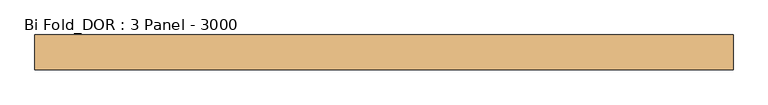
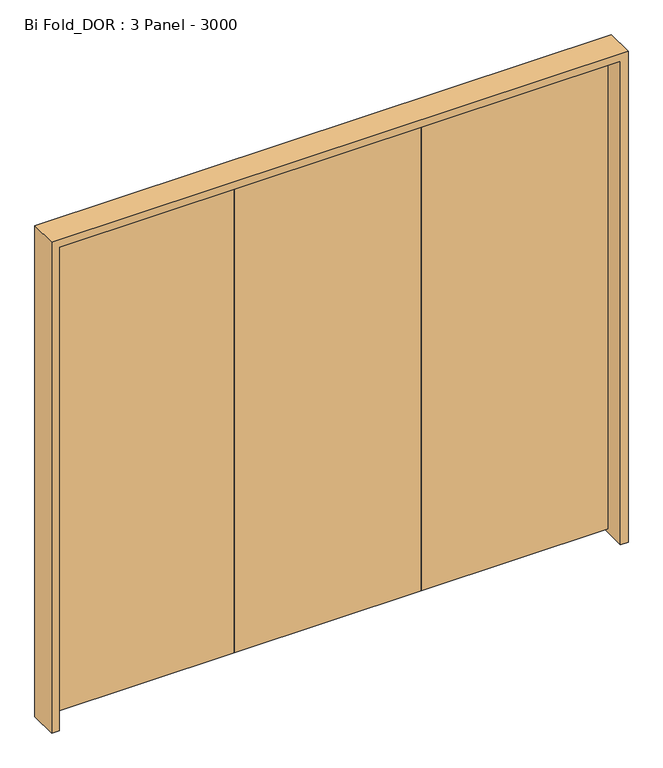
"""IFC4 building model written with IfcOpenShell, lengths in millimetres: door geometry, Bi Fold_DOR : 3 Panel - 3000."""

from ifc_helpers import new_model, si_unit, frame, origin, place, context, project, spatial, polyline, outline, extrude, source, transform, mapped, element, save


def bi_fold_dor_3_panel_3000_dd6e1ca5(model_context):
    return source(origin(), model_context, "Body", "SweptSolid", [
        extrude(outline(polyline([(1460.0, 35.0), (486.6666667, 35.0), (486.6666667, 75.0), (1460.0, 75.0), (1460.0, 35.0)])), frame((0.0, 0.0, 20.0), z_axis=(0.0, 0.0, 1.0), x_axis=(1.0, 0.0, 0.0)), (0.0, 0.0, 1.0), 2640.0),
        extrude(outline(polyline([(486.6666667, 35.0), (-486.6666667, 35.0), (-486.6666667, 75.0), (486.6666667, 75.0), (486.6666667, 35.0)])), frame((0.0, 0.0, 20.0), z_axis=(0.0, 0.0, 1.0), x_axis=(1.0, 0.0, 0.0)), (0.0, 0.0, 1.0), 2640.0),
        extrude(outline(polyline([(-486.6666667, 35.0), (-1460.0, 35.0), (-1460.0, 75.0), (-486.6666667, 75.0), (-486.6666667, 35.0)])), frame((0.0, 0.0, 20.0), z_axis=(0.0, 0.0, 1.0), x_axis=(1.0, 0.0, 0.0)), (0.0, 0.0, 1.0), 2640.0),
        extrude(outline(polyline([(0.0, 1460.0), (0.0, 1500.0), (2700.0, 1500.0), (2700.0, -1500.0), (0.0, -1500.0), (0.0, -1460.0), (2660.0, -1460.0), (2660.0, 1460.0), (0.0, 1460.0)])), frame((0.0, -75.0, 0.0), z_axis=(0.0, 1.0, 0.0), x_axis=(0.0, 0.0, 1.0)), (0.0, 0.0, 1.0), 150.0),
    ])


if __name__ == "__main__":
    model = new_model("IFC4")
    model_context = context("Model", 3, world=origin())
    ifc_project = project(units=[si_unit("LENGTHUNIT", "METRE", prefix="MILLI")], contexts=[model_context])
    site = spatial("IfcSite", under=ifc_project)
    building = spatial("IfcBuilding", under=site)
    placement = place(None, origin())
    bi_fold_dor_3_panel_3000_shape = bi_fold_dor_3_panel_3000_dd6e1ca5(model_context)
    element("IfcDoor", 1, ObjectType="Bi Fold_DOR : 3 Panel - 3000", at=placement, inside=building, context=model_context, shape_type="MappedRepresentation", body=[
        mapped(bi_fold_dor_3_panel_3000_shape, transform((0.0, 0.0, 0.0), x_axis=(1.0, 0.0, 0.0), y_axis=(0.0, 1.0, 0.0), z_axis=(0.0, 0.0, 1.0))),
    ])
    save(model, "model.ifc")
